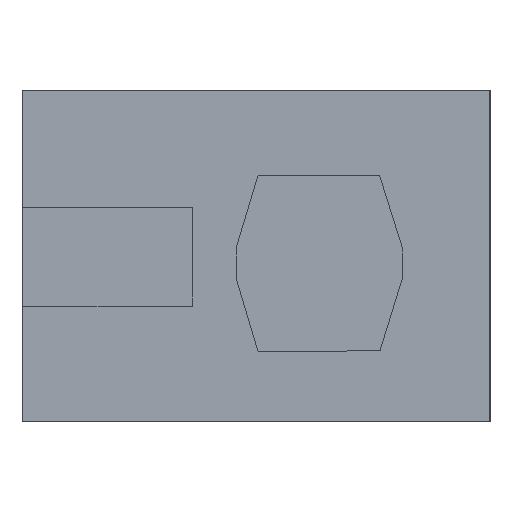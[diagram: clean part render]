
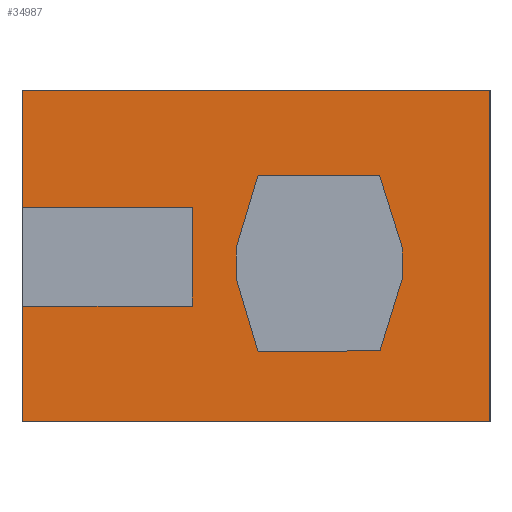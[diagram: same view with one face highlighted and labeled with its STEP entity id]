
A CAD part, top view. The second image highlights one B-rep face of the part: STEP entity #34987.
In plain terms, the highlighted planar face has unit normal (0, 0, 1).
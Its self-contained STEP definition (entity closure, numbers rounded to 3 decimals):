
#34673 = VERTEX_POINT('',#34674);
#34674 = CARTESIAN_POINT('',(24.,17.,3.));
#34681 = PLANE('',#34682);
#34682 = AXIS2_PLACEMENT_3D('',#34683,#34684,#34685);
#34683 = CARTESIAN_POINT('',(24.,17.,0.));
#34684 = DIRECTION('',(0.,-1.,0.));
#34685 = DIRECTION('',(-1.,0.,0.));
#34693 = PLANE('',#34694);
#34694 = AXIS2_PLACEMENT_3D('',#34695,#34696,#34697);
#34695 = CARTESIAN_POINT('',(24.,-17.,0.));
#34696 = DIRECTION('',(-1.,0.,0.));
#34697 = DIRECTION('',(0.,1.,0.));
#34705 = EDGE_CURVE('',#34673,#34706,#34708,.T.);
#34706 = VERTEX_POINT('',#34707);
#34707 = CARTESIAN_POINT('',(-24.,17.,3.));
#34708 = SURFACE_CURVE('',#34709,(#34713,#34720),.PCURVE_S1.);
#34709 = LINE('',#34710,#34711);
#34710 = CARTESIAN_POINT('',(24.,17.,3.));
#34711 = VECTOR('',#34712,1.);
#34712 = DIRECTION('',(-1.,0.,0.));
#34713 = PCURVE('',#34681,#34714);
#34714 = DEFINITIONAL_REPRESENTATION('',(#34715),#34719);
#34715 = LINE('',#34716,#34717);
#34716 = CARTESIAN_POINT('',(0.,-3.));
#34717 = VECTOR('',#34718,1.);
#34718 = DIRECTION('',(1.,0.));
#34719 = ( GEOMETRIC_REPRESENTATION_CONTEXT(2) 
PARAMETRIC_REPRESENTATION_CONTEXT() REPRESENTATION_CONTEXT('2D SPACE',''
  ) );
#34720 = PCURVE('',#34721,#34726);
#34721 = PLANE('',#34722);
#34722 = AXIS2_PLACEMENT_3D('',#34723,#34724,#34725);
#34723 = CARTESIAN_POINT('',(24.,17.,3.));
#34724 = DIRECTION('',(0.,0.,-1.));
#34725 = DIRECTION('',(-1.,0.,0.));
#34726 = DEFINITIONAL_REPRESENTATION('',(#34727),#34731);
#34727 = LINE('',#34728,#34729);
#34728 = CARTESIAN_POINT('',(0.,0.));
#34729 = VECTOR('',#34730,1.);
#34730 = DIRECTION('',(1.,0.));
#34731 = ( GEOMETRIC_REPRESENTATION_CONTEXT(2) 
PARAMETRIC_REPRESENTATION_CONTEXT() REPRESENTATION_CONTEXT('2D SPACE',''
  ) );
#34749 = PLANE('',#34750);
#34750 = AXIS2_PLACEMENT_3D('',#34751,#34752,#34753);
#34751 = CARTESIAN_POINT('',(-24.,17.,0.));
#34752 = DIRECTION('',(1.,0.,0.));
#34753 = DIRECTION('',(0.,-1.,0.));
#34791 = EDGE_CURVE('',#34706,#34792,#34794,.T.);
#34792 = VERTEX_POINT('',#34793);
#34793 = CARTESIAN_POINT('',(-24.,-17.,3.));
#34794 = SURFACE_CURVE('',#34795,(#34799,#34806),.PCURVE_S1.);
#34795 = LINE('',#34796,#34797);
#34796 = CARTESIAN_POINT('',(-24.,17.,3.));
#34797 = VECTOR('',#34798,1.);
#34798 = DIRECTION('',(0.,-1.,0.));
#34799 = PCURVE('',#34749,#34800);
#34800 = DEFINITIONAL_REPRESENTATION('',(#34801),#34805);
#34801 = LINE('',#34802,#34803);
#34802 = CARTESIAN_POINT('',(0.,-3.));
#34803 = VECTOR('',#34804,1.);
#34804 = DIRECTION('',(1.,0.));
#34805 = ( GEOMETRIC_REPRESENTATION_CONTEXT(2) 
PARAMETRIC_REPRESENTATION_CONTEXT() REPRESENTATION_CONTEXT('2D SPACE',''
  ) );
#34806 = PCURVE('',#34721,#34807);
#34807 = DEFINITIONAL_REPRESENTATION('',(#34808),#34812);
#34808 = LINE('',#34809,#34810);
#34809 = CARTESIAN_POINT('',(48.,0.));
#34810 = VECTOR('',#34811,1.);
#34811 = DIRECTION('',(0.,-1.));
#34812 = ( GEOMETRIC_REPRESENTATION_CONTEXT(2) 
PARAMETRIC_REPRESENTATION_CONTEXT() REPRESENTATION_CONTEXT('2D SPACE',''
  ) );
#34830 = PLANE('',#34831);
#34831 = AXIS2_PLACEMENT_3D('',#34832,#34833,#34834);
#34832 = CARTESIAN_POINT('',(-24.,-17.,0.));
#34833 = DIRECTION('',(0.,1.,0.));
#34834 = DIRECTION('',(1.,0.,0.));
#34867 = EDGE_CURVE('',#34792,#34868,#34870,.T.);
#34868 = VERTEX_POINT('',#34869);
#34869 = CARTESIAN_POINT('',(24.,-17.,3.));
#34870 = SURFACE_CURVE('',#34871,(#34875,#34882),.PCURVE_S1.);
#34871 = LINE('',#34872,#34873);
#34872 = CARTESIAN_POINT('',(-24.,-17.,3.));
#34873 = VECTOR('',#34874,1.);
#34874 = DIRECTION('',(1.,0.,0.));
#34875 = PCURVE('',#34830,#34876);
#34876 = DEFINITIONAL_REPRESENTATION('',(#34877),#34881);
#34877 = LINE('',#34878,#34879);
#34878 = CARTESIAN_POINT('',(0.,-3.));
#34879 = VECTOR('',#34880,1.);
#34880 = DIRECTION('',(1.,0.));
#34881 = ( GEOMETRIC_REPRESENTATION_CONTEXT(2) 
PARAMETRIC_REPRESENTATION_CONTEXT() REPRESENTATION_CONTEXT('2D SPACE',''
  ) );
#34882 = PCURVE('',#34721,#34883);
#34883 = DEFINITIONAL_REPRESENTATION('',(#34884),#34888);
#34884 = LINE('',#34885,#34886);
#34885 = CARTESIAN_POINT('',(48.,-34.));
#34886 = VECTOR('',#34887,1.);
#34887 = DIRECTION('',(-1.,0.));
#34888 = ( GEOMETRIC_REPRESENTATION_CONTEXT(2) 
PARAMETRIC_REPRESENTATION_CONTEXT() REPRESENTATION_CONTEXT('2D SPACE',''
  ) );
#34938 = EDGE_CURVE('',#34868,#34673,#34939,.T.);
#34939 = SURFACE_CURVE('',#34940,(#34944,#34951),.PCURVE_S1.);
#34940 = LINE('',#34941,#34942);
#34941 = CARTESIAN_POINT('',(24.,-17.,3.));
#34942 = VECTOR('',#34943,1.);
#34943 = DIRECTION('',(0.,1.,0.));
#34944 = PCURVE('',#34693,#34945);
#34945 = DEFINITIONAL_REPRESENTATION('',(#34946),#34950);
#34946 = LINE('',#34947,#34948);
#34947 = CARTESIAN_POINT('',(0.,-3.));
#34948 = VECTOR('',#34949,1.);
#34949 = DIRECTION('',(1.,0.));
#34950 = ( GEOMETRIC_REPRESENTATION_CONTEXT(2) 
PARAMETRIC_REPRESENTATION_CONTEXT() REPRESENTATION_CONTEXT('2D SPACE',''
  ) );
#34951 = PCURVE('',#34721,#34952);
#34952 = DEFINITIONAL_REPRESENTATION('',(#34953),#34957);
#34953 = LINE('',#34954,#34955);
#34954 = CARTESIAN_POINT('',(0.,-34.));
#34955 = VECTOR('',#34956,1.);
#34956 = DIRECTION('',(0.,1.));
#34957 = ( GEOMETRIC_REPRESENTATION_CONTEXT(2) 
PARAMETRIC_REPRESENTATION_CONTEXT() REPRESENTATION_CONTEXT('2D SPACE',''
  ) );
#34987 = ADVANCED_FACE('',(#34988),#34721,.F.);
#34988 = FACE_BOUND('',#34989,.T.);
#34989 = EDGE_LOOP('',(#34990,#34991,#34992,#34993));
#34990 = ORIENTED_EDGE('',*,*,#34705,.T.);
#34991 = ORIENTED_EDGE('',*,*,#34791,.T.);
#34992 = ORIENTED_EDGE('',*,*,#34867,.T.);
#34993 = ORIENTED_EDGE('',*,*,#34938,.T.);
